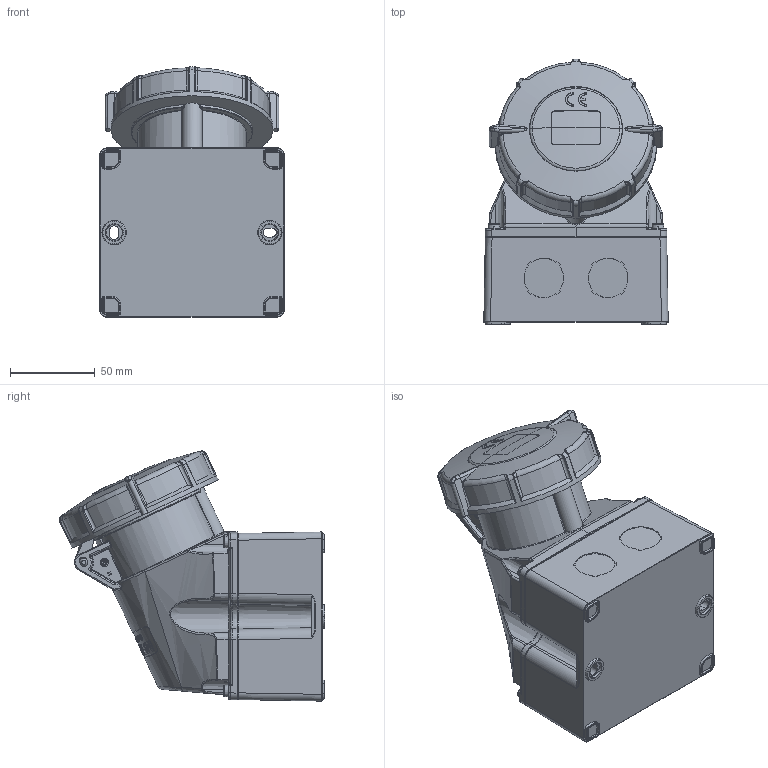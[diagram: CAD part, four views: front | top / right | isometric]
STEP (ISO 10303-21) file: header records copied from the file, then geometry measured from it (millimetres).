
FILE_DESCRIPTION((''),'2;1');
FILE_NAME('9151_9172_SW0001','2017-11-17T',('gisse'),('MENNEKES'),'PRO/ENGINEER BY PARAMETRIC TECHNOLOGY CORPORATION, 2015440','PRO/ENGINEER BY PARAMETRIC TECHNOLOGY CORPORATION, 2015440','');
FILE_SCHEMA(('AUTOMOTIVE_DESIGN { 1 0 10303 214 1 1 1 1 }'));
Products named in the file (1): 9151_9172_SW0001
Bounding box: 108.99 x 156.86 x 147.92 mm (x, y, z)
Volume: 1165976.7 mm3; surface area: 84680.6 mm2
Topology: 1 solids, 2 shells, 2323 faces, 6101 edges, 3892 vertices
Faces by surface type: plane 1230, cylinder 333, bspline 305, extrusion 244, torus 90, cone 86, sphere 35
Entity records: 137909 total; most frequent: CARTESIAN_POINT 38223, ORIENTED_EDGE 12198, DIRECTION 9013, PRESENTATION_STYLE_ASSIGNMENT 8588, STYLED_ITEM 6344, CURVE_STYLE 6343, EDGE_CURVE 6099, FILL_AREA_STYLE_COLOUR 4489
